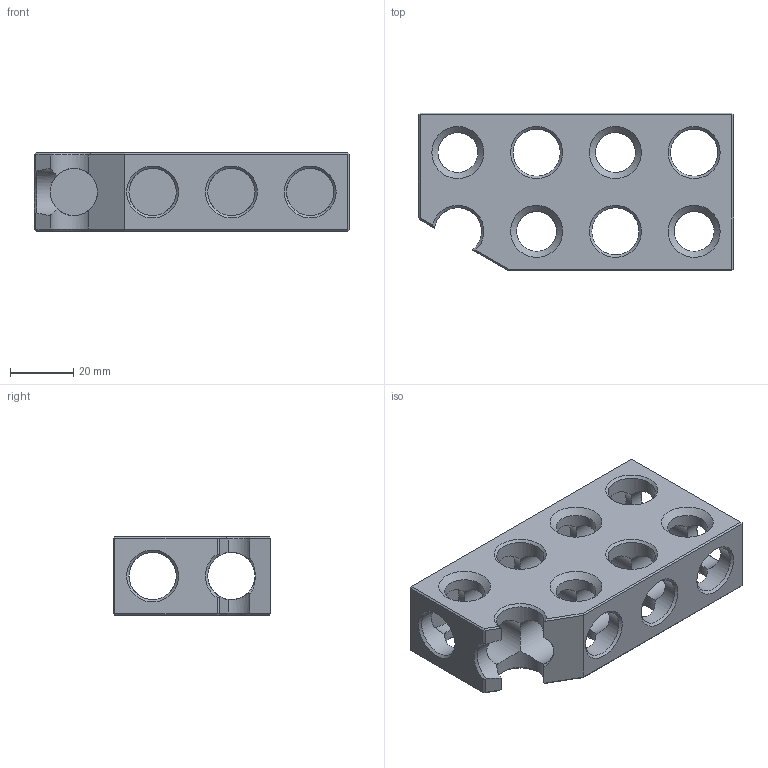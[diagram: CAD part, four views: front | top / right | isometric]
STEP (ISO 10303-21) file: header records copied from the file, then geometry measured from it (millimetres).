
FILE_DESCRIPTION(/* description */ (''),/* implementation_level */ '2;1');
FILE_NAME(/* name */ '/Users/aaronb/Desktop/000 (025050100).step',/* time_stamp */ '2020-07-08T23:29:00-04:00',/* author */ (''),/* organization */ (''),/* preprocessor_version */ 'ST-DEVELOPER v18.1',/* originating_system */ 'Autodesk Translation Framework v9.3.0.1241',/* authorisation */ '');
FILE_SCHEMA (('AUTOMOTIVE_DESIGN { 1 0 10303 214 3 1 1 }'));
Products named in the file (1): 000 (025050100)
Bounding box: 100 x 50 x 25 mm (x, y, z)
Volume: 57263.1 mm3; surface area: 24850 mm2
Topology: 1 solids, 1 shells, 1290 faces, 3718 edges, 2461 vertices
Faces by surface type: bspline 907, plane 322, cylinder 38, cone 23
Full cylindrical faces by diameter (mm): 12.7 x8, 15 x26
Entity records: 50886 total; most frequent: CARTESIAN_POINT 23205, ORIENTED_EDGE 7436, EDGE_CURVE 3718, DIRECTION 2769, VERTEX_POINT 2461, B_SPLINE_CURVE_WITH_KNOTS 1854, LINE 1707, VECTOR 1707
